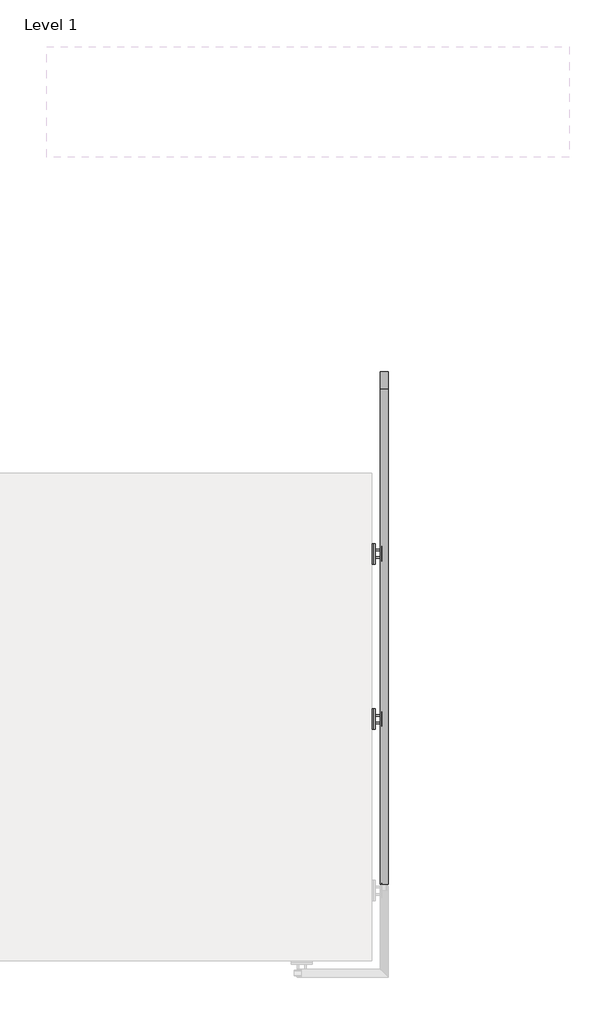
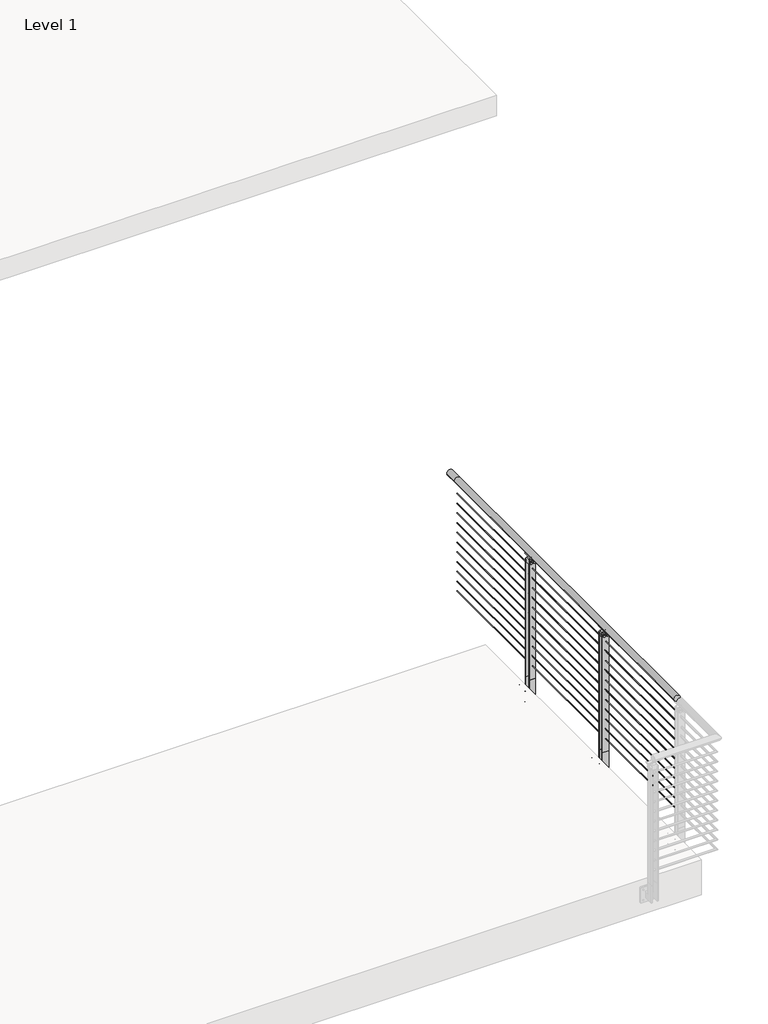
# One storey, part 6 of 36: 1 railing.
"""IFC4 building model written with IfcOpenShell, lengths in millimetres."""

from ifc_helpers import new_model, si_unit, point, frame, frame_2d, origin, origin_with_axes, place, context, project, spatial, polyline, circle_curve, trimmed, segment, composite_curve, outline, extrude, element, save
from ifc_brep_helpers import plane_surface, cylinder_surface, revolved_surface, advanced_brep

model = new_model("IFC4")

# Units and contexts
model_context = context("Model", 3, world=origin())
ifc_project = project(units=[si_unit("LENGTHUNIT", "METRE", prefix="MILLI")], contexts=[model_context])

# Site, building, storey
site = spatial("IfcSite", under=ifc_project)
building = spatial("IfcBuilding", under=site)
storey = spatial("IfcBuildingStorey", under=building, Name="Level 1", Elevation=0.0)

# Railing
placement = place(None, origin())
element("IfcRailing", 1, ObjectType="VIVA-BLADE-Cable-Fascia Mount-Straight", at=placement, inside=storey, context=model_context, shape_type="SolidModel", body=[
    advanced_brep(
    [(-4882.5880416, -53564.9334719, 1054.1), (-4831.7880416, -53564.9334719, 1054.1), (-4882.5880416, -53666.5334719, 1054.1), (-4831.7880416, -53666.5334719, 1054.1), (-4882.5880416, -56714.5334719, 1054.1), (-4831.7880416, -56714.5334719, 1054.1)],
    [
        (0, 1, circle_curve(frame((-4857.1880416, -53564.9334719, 1054.1), z_axis=(0.0, 1.0, 0.0), x_axis=(1.0, 0.0, 0.0)), 25.4)),
        (1, 0, circle_curve(frame((-4857.1880416, -53564.9334719, 1054.1), z_axis=(0.0, 1.0, 0.0), x_axis=(1.0, 0.0, 0.0)), 25.4)),
        (0, 2),
        (2, 3, circle_curve(frame((-4857.1880416, -53666.5334719, 1054.1), z_axis=(0.0, 1.0, 0.0), x_axis=(1.0, 0.0, 0.0)), 25.4)),
        (3, 1),
        (3, 2, circle_curve(frame((-4857.1880416, -53666.5334719, 1054.1), z_axis=(0.0, 1.0, 0.0), x_axis=(1.0, 0.0, 0.0)), 25.4)),
        (4, 5, circle_curve(frame((-4857.1880416, -56714.5334719, 1054.1), z_axis=(0.0, -1.0, 0.0), x_axis=(1.0, 0.0, 0.0)), 25.4)),
        (5, 4, circle_curve(frame((-4857.1880416, -56714.5334719, 1054.1), z_axis=(0.0, -1.0, 0.0), x_axis=(1.0, 0.0, 0.0)), 25.4)),
        (2, 4),
        (5, 3),
    ],
    [
        plane_surface(frame((-4857.1880416, -53564.9334719, 1079.5), z_axis=(0.0, 1.0, 0.0), x_axis=(0.0, 0.0, -1.0))),
        cylinder_surface(frame((-4857.1880416, -53564.9334719, 1054.1), z_axis=(0.0, 1.0, 0.0), x_axis=(1.0, 0.0, 0.0)), 25.4),
        plane_surface(frame((-4857.1880416, -56714.5334719, 1079.5), z_axis=(0.0, -1.0, 0.0), x_axis=(0.0, 0.0, -1.0))),
        cylinder_surface(frame((-4857.1880416, -53666.5334719, 1054.1), z_axis=(0.0, 1.0, 0.0), x_axis=(1.0, 0.0, 0.0)), 25.4),
    ],
    [
        (0, [[1, 2]]),
        (1, [[-1, 3, 4, 5]]),
        (1, [[-2, -5, 6, -3]]),
        (2, [[7, 8]]),
        (3, [[-4, 9, -8, 10]]),
        (3, [[-6, -10, -7, -9]]),
    ],
),
    extrude(outline(composite_curve([segment(trimmed(circle_curve(frame_2d((937.4124, -4857.1880416)), 2.3876), [point((937.4124, -4859.5756416))], [point((937.4124, -4854.8004416))], False, "CARTESIAN"), True, "CONTINUOUS"), segment(trimmed(circle_curve(frame_2d((937.4124, -4857.1880416)), 2.3876), [point((937.4124, -4854.8004416))], [point((937.4124, -4859.5756416))], False, "CARTESIAN"), True, "CONTINUOUS")], self_intersect=False)), frame((0.0, -56714.5334719, 0.0), z_axis=(0.0, 1.0, 0.0), x_axis=(0.0, 0.0, 1.0)), (0.0, 0.0, 1.0), 3048.0),
    extrude(outline(composite_curve([segment(trimmed(circle_curve(frame_2d((854.8624, -4857.1880416)), 2.3876), [point((854.8624, -4859.5756416))], [point((854.8624, -4854.8004416))], False, "CARTESIAN"), True, "CONTINUOUS"), segment(trimmed(circle_curve(frame_2d((854.8624, -4857.1880416)), 2.3876), [point((854.8624, -4854.8004416))], [point((854.8624, -4859.5756416))], False, "CARTESIAN"), True, "CONTINUOUS")], self_intersect=False)), frame((0.0, -56714.5334719, 0.0), z_axis=(0.0, 1.0, 0.0), x_axis=(0.0, 0.0, 1.0)), (0.0, 0.0, 1.0), 3048.0),
    extrude(outline(composite_curve([segment(trimmed(circle_curve(frame_2d((772.3124, -4857.1880416)), 2.3876), [point((772.3124, -4859.5756416))], [point((772.3124, -4854.8004416))], False, "CARTESIAN"), True, "CONTINUOUS"), segment(trimmed(circle_curve(frame_2d((772.3124, -4857.1880416)), 2.3876), [point((772.3124, -4854.8004416))], [point((772.3124, -4859.5756416))], False, "CARTESIAN"), True, "CONTINUOUS")], self_intersect=False)), frame((0.0, -56714.5334719, 0.0), z_axis=(0.0, 1.0, 0.0), x_axis=(0.0, 0.0, 1.0)), (0.0, 0.0, 1.0), 3048.0),
    extrude(outline(composite_curve([segment(trimmed(circle_curve(frame_2d((689.7624, -4857.1880416)), 2.3876), [point((689.7624, -4859.5756416))], [point((689.7624, -4854.8004416))], False, "CARTESIAN"), True, "CONTINUOUS"), segment(trimmed(circle_curve(frame_2d((689.7624, -4857.1880416)), 2.3876), [point((689.7624, -4854.8004416))], [point((689.7624, -4859.5756416))], False, "CARTESIAN"), True, "CONTINUOUS")], self_intersect=False)), frame((0.0, -56714.5334719, 0.0), z_axis=(0.0, 1.0, 0.0), x_axis=(0.0, 0.0, 1.0)), (0.0, 0.0, 1.0), 3048.0),
    extrude(outline(composite_curve([segment(trimmed(circle_curve(frame_2d((607.2124, -4857.1880416)), 2.3876), [point((607.2124, -4859.5756416))], [point((607.2124, -4854.8004416))], False, "CARTESIAN"), True, "CONTINUOUS"), segment(trimmed(circle_curve(frame_2d((607.2124, -4857.1880416)), 2.3876), [point((607.2124, -4854.8004416))], [point((607.2124, -4859.5756416))], False, "CARTESIAN"), True, "CONTINUOUS")], self_intersect=False)), frame((0.0, -56714.5334719, 0.0), z_axis=(0.0, 1.0, 0.0), x_axis=(0.0, 0.0, 1.0)), (0.0, 0.0, 1.0), 3048.0),
    extrude(outline(composite_curve([segment(trimmed(circle_curve(frame_2d((524.6624, -4857.1880416)), 2.3876), [point((524.6624, -4859.5756416))], [point((524.6624, -4854.8004416))], False, "CARTESIAN"), True, "CONTINUOUS"), segment(trimmed(circle_curve(frame_2d((524.6624, -4857.1880416)), 2.3876), [point((524.6624, -4854.8004416))], [point((524.6624, -4859.5756416))], False, "CARTESIAN"), True, "CONTINUOUS")], self_intersect=False)), frame((0.0, -56714.5334719, 0.0), z_axis=(0.0, 1.0, 0.0), x_axis=(0.0, 0.0, 1.0)), (0.0, 0.0, 1.0), 3048.0),
    extrude(outline(composite_curve([segment(trimmed(circle_curve(frame_2d((442.1124, -4857.1880416)), 2.3876), [point((442.1124, -4859.5756416))], [point((442.1124, -4854.8004416))], False, "CARTESIAN"), True, "CONTINUOUS"), segment(trimmed(circle_curve(frame_2d((442.1124, -4857.1880416)), 2.3876), [point((442.1124, -4854.8004416))], [point((442.1124, -4859.5756416))], False, "CARTESIAN"), True, "CONTINUOUS")], self_intersect=False)), frame((0.0, -56714.5334719, 0.0), z_axis=(0.0, 1.0, 0.0), x_axis=(0.0, 0.0, 1.0)), (0.0, 0.0, 1.0), 3048.0),
    extrude(outline(composite_curve([segment(trimmed(circle_curve(frame_2d((359.5624, -4857.1880416)), 2.3876), [point((359.5624, -4859.5756416))], [point((359.5624, -4854.8004416))], False, "CARTESIAN"), True, "CONTINUOUS"), segment(trimmed(circle_curve(frame_2d((359.5624, -4857.1880416)), 2.3876), [point((359.5624, -4854.8004416))], [point((359.5624, -4859.5756416))], False, "CARTESIAN"), True, "CONTINUOUS")], self_intersect=False)), frame((0.0, -56714.5334719, 0.0), z_axis=(0.0, 1.0, 0.0), x_axis=(0.0, 0.0, 1.0)), (0.0, 0.0, 1.0), 3048.0),
    extrude(outline(composite_curve([segment(trimmed(circle_curve(frame_2d((277.0124, -4857.1880416)), 2.3876), [point((277.0124, -4859.5756416))], [point((277.0124, -4854.8004416))], False, "CARTESIAN"), True, "CONTINUOUS"), segment(trimmed(circle_curve(frame_2d((277.0124, -4857.1880416)), 2.3876), [point((277.0124, -4854.8004416))], [point((277.0124, -4859.5756416))], False, "CARTESIAN"), True, "CONTINUOUS")], self_intersect=False)), frame((0.0, -56714.5334719, 0.0), z_axis=(0.0, 1.0, 0.0), x_axis=(0.0, 0.0, 1.0)), (0.0, 0.0, 1.0), 3048.0),
    extrude(outline(composite_curve([segment(trimmed(circle_curve(frame_2d((194.4624, -4857.1880416)), 2.3876), [point((194.4624, -4859.5756416))], [point((194.4624, -4854.8004416))], False, "CARTESIAN"), True, "CONTINUOUS"), segment(trimmed(circle_curve(frame_2d((194.4624, -4857.1880416)), 2.3876), [point((194.4624, -4854.8004416))], [point((194.4624, -4859.5756416))], False, "CARTESIAN"), True, "CONTINUOUS")], self_intersect=False)), frame((0.0, -56714.5334719, 0.0), z_axis=(0.0, 1.0, 0.0), x_axis=(0.0, 0.0, 1.0)), (0.0, 0.0, 1.0), 3048.0),
    extrude(outline(composite_curve([segment(trimmed(circle_curve(frame_2d((111.9124, -4857.1880416)), 2.3876), [point((111.9124, -4859.5756416))], [point((111.9124, -4854.8004416))], False, "CARTESIAN"), True, "CONTINUOUS"), segment(trimmed(circle_curve(frame_2d((111.9124, -4857.1880416)), 2.3876), [point((111.9124, -4854.8004416))], [point((111.9124, -4859.5756416))], False, "CARTESIAN"), True, "CONTINUOUS")], self_intersect=False)), frame((0.0, -56714.5334719, 0.0), z_axis=(0.0, 1.0, 0.0), x_axis=(0.0, 0.0, 1.0)), (0.0, 0.0, 1.0), 3048.0),
    extrude(outline(polyline([(-146.05, -4831.7855137), (0.0, -4831.7855137), (0.0, -4882.5855137), (-95.25, -4882.5855137), (-95.25, -4914.3382474), (-146.05, -4914.3382474), (-146.05, -4831.7855137)])), frame((0.0, -55679.4834719, 0.0), z_axis=(0.0, 1.0, 0.0), x_axis=(0.0, 0.0, 1.0)), (0.0, 0.0, 1.0), 8.0248357),
    extrude(outline(polyline([(0.0, -4882.5855137), (-95.25, -4882.5855137), (-95.25, -4914.3382474), (-146.05, -4914.3382474), (-146.05, -4831.7855137), (0.0, -4831.7855137), (0.0, -4882.5855137)])), frame((0.0, -55725.5844338, 0.0), z_axis=(0.0, 1.0, 0.0), x_axis=(0.0, 0.0, 1.0)), (0.0, 0.0, 1.0), 8.001),
    advanced_brep(
    [(-4869.9481653, -55743.7708719, 1032.0967655), (-4873.7840627, -55743.7708719, 1027.707533), (-4842.2671704, -55743.7708719, 1027.1267745), (-4845.0761007, -55743.7708719, 1031.9535285), (-4869.9481653, -55653.2960719, 1032.0967655), (-4844.9891286, -55653.2960719, 1032.0018447), (-4842.153377, -55653.2960719, 1027.1893964), (-4873.7840627, -55653.2960719, 1027.707533)],
    [
        (0, 1, circle_curve(frame((-4871.4957229, -55743.7708719, 1029.5784521), z_axis=(0.0, -1.0, 0.0), x_axis=(-1.0, 0.0, 0.0)), 2.9558141)),
        (1, 2, circle_curve(frame((-4857.5178255, -55743.7708719, 1054.9742164), z_axis=(0.0, -1.0, 0.0), x_axis=(-1.0, 0.0, 0.0)), 31.75)),
        (2, 3, circle_curve(frame((-4843.7444755, -55743.7708719, 1029.4993599), z_axis=(0.0, -1.0, 0.0), x_axis=(-1.0, 0.0, 0.0)), 2.7949225)),
        (3, 0, circle_curve(frame((-4857.3843624, -55743.7708719, 1054.2115898), z_axis=(0.0, 1.0, 0.0), x_axis=(-1.0, 0.0, 0.0)), 25.4345159)),
        (4, 5, circle_curve(frame((-4857.3843624, -55653.2960719, 1054.2115898), z_axis=(0.0, -1.0, 0.0), x_axis=(-1.0, 0.0, 0.0)), 25.4345159)),
        (5, 6, circle_curve(frame((-4843.7444755, -55653.2960719, 1029.4993599), z_axis=(0.0, 1.0, 0.0), x_axis=(-1.0, 0.0, 0.0)), 2.7949225)),
        (6, 7, circle_curve(frame((-4857.5178255, -55653.2960719, 1054.9742164), z_axis=(0.0, 1.0, 0.0), x_axis=(-1.0, 0.0, 0.0)), 31.75)),
        (7, 4, circle_curve(frame((-4871.4957229, -55653.2960719, 1029.5784521), z_axis=(0.0, 1.0, 0.0), x_axis=(-1.0, 0.0, 0.0)), 2.9558141)),
        (3, 5),
        (4, 0),
        (2, 6),
        (1, 7),
    ],
    [
        plane_surface(frame((-4882.8188782, -55743.7708719, 1054.2115898), z_axis=(0.0, -1.0, 0.0), x_axis=(0.0, 0.0, -1.0))),
        plane_surface(frame((-4882.8188782, -55653.2960719, 1054.2115898), z_axis=(0.0, 1.0, 0.0), x_axis=(0.0, 0.0, 1.0))),
        revolved_surface(polyline([(-4882.8188783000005, -55653.2960719, 1054.2115898), (-4882.8188783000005, -55743.7708719, 1054.2115898)]), (-4857.3843624, -55653.2960719, 1054.2115898), (0.0, 1.0, 0.0)),
        cylinder_surface(frame((-4843.7444755, -55653.2960719, 1029.4993599), z_axis=(0.0, -1.0, 0.0), x_axis=(-1.0, 0.0, 0.0)), 2.7949225),
        cylinder_surface(frame((-4857.5178255, -55653.2960719, 1054.9742164), z_axis=(0.0, -1.0, 0.0), x_axis=(-1.0, 0.0, 0.0)), 31.75),
        cylinder_surface(frame((-4871.4957229, -55653.2960719, 1029.5784521), z_axis=(0.0, -1.0, 0.0), x_axis=(-1.0, 0.0, 0.0)), 2.9558141),
    ],
    [
        (0, [[1, 2, 3, 4]]),
        (1, [[5, 6, 7, 8]]),
        (2, [[9, -5, 10, -4]]),
        (3, [[11, -6, -9, -3]]),
        (4, [[12, -7, -11, -2]]),
        (5, [[-10, -8, -12, -1]]),
    ],
),
    extrude(outline(polyline([(-4933.3882474, -55762.021535), (-4933.3882474, -55635.021535), (-4923.8632474, -55635.021535), (-4923.8632474, -55762.021535), (-4933.3882474, -55762.021535)])), frame((0.0, 0.0, -184.15), z_axis=(0.0, 0.0, 1.0), x_axis=(1.0, 0.0, 0.0)), (0.0, 0.0, 1.0), 127.0),
    advanced_brep(
    [(-4859.7280416, -55711.2334719, 1014.4125), (-4859.7280416, -55725.6013867, 1028.7804149), (-4859.7280416, -55671.465557, 1028.7804149), (-4859.7280416, -55685.8334719, 1014.4125), (-4854.6480416, -55711.2334719, 1014.4125), (-4854.6480416, -55685.8334719, 1014.4125), (-4854.6480416, -55671.465557, 1028.7804149), (-4854.6480416, -55725.6013867, 1028.7804149)],
    [
        (0, 1, circle_curve(frame((-4859.7280416, -55725.6013867, 1014.4125), z_axis=(1.0, 0.0, 0.0), x_axis=(0.0, 1.0, 0.0)), 14.3679149)),
        (1, 2),
        (2, 3, circle_curve(frame((-4859.7280416, -55671.465557, 1014.4125), z_axis=(1.0, 0.0, 0.0), x_axis=(0.0, 1.0, 0.0)), 14.3679149)),
        (3, 0),
        (4, 5),
        (5, 6, circle_curve(frame((-4854.6480416, -55671.465557, 1014.4125), z_axis=(-1.0, 0.0, 0.0), x_axis=(0.0, 1.0, 0.0)), 14.3679149)),
        (6, 7),
        (7, 4, circle_curve(frame((-4854.6480416, -55725.6013867, 1014.4125), z_axis=(-1.0, 0.0, 0.0), x_axis=(0.0, 1.0, 0.0)), 14.3679149)),
        (3, 5),
        (4, 0),
        (2, 6),
        (1, 7),
    ],
    [
        plane_surface(frame((-4859.7280416, -55685.8334719, 1014.4125), z_axis=(-1.0, 0.0, 0.0), x_axis=(0.0, 1.0, 0.0))),
        plane_surface(frame((-4854.6480416, -55685.8334719, 1014.4125), z_axis=(1.0, 0.0, 0.0), x_axis=(0.0, -1.0, 0.0))),
        plane_surface(frame((-4859.7280416, -55711.2334719, 1014.4125), z_axis=(0.0, 0.0, -1.0), x_axis=(1.0, 0.0, 0.0))),
        revolved_surface(polyline([(-4854.6480416, -55657.0976421, 1014.4125), (-4859.7280416, -55657.0976421, 1014.4125)]), (-4854.6480416, -55671.465557, 1014.4125), (1.0, 0.0, 0.0)),
        plane_surface(frame((-4859.7280416, -55671.465557, 1028.7804149), z_axis=(0.0, 0.0, 1.0), x_axis=(1.0, 0.0, 0.0))),
        revolved_surface(polyline([(-4854.6480416, -55711.2334718, 1014.4125), (-4859.7280416, -55711.2334718, 1014.4125)]), (-4854.6480416, -55725.6013867, 1014.4125), (1.0, 0.0, 0.0)),
    ],
    [
        (0, [[1, 2, 3, 4]]),
        (1, [[5, 6, 7, 8]]),
        (2, [[9, -5, 10, -4]]),
        (3, [[11, -6, -9, -3]]),
        (4, [[12, -7, -11, -2]]),
        (5, [[-10, -8, -12, -1]]),
    ],
),
    extrude(outline(polyline([(-4882.5878383, -55671.4586362), (-4831.7855137, -55671.4586362), (-4831.7855137, -55679.4834719), (-4882.5878383, -55679.4834719), (-4882.5878383, -55671.4586362)])), origin_with_axes(), (0.0, 0.0, 1.0), 996.95),
    extrude(outline(polyline([(-55635.021535, -184.15), (-55762.021535, -184.15), (-55762.021535, -57.15), (-55635.021535, -57.15), (-55635.021535, -184.15)]), holes=[composite_curve([segment(trimmed(circle_curve(frame_2d((-55654.071535, -76.2)), 4.7068371), [point((-55658.7783721, -76.2))], [point((-55649.3646979, -76.2))], True, "CARTESIAN"), True, "CONTINUOUS"), segment(trimmed(circle_curve(frame_2d((-55654.071535, -76.2)), 4.7068371), [point((-55649.3646979, -76.2))], [point((-55658.7783721, -76.2))], True, "CARTESIAN"), True, "CONTINUOUS")], self_intersect=False), composite_curve([segment(trimmed(circle_curve(frame_2d((-55742.971535, -76.2)), 4.7068371), [point((-55747.6783721, -76.2))], [point((-55738.2646979, -76.2))], True, "CARTESIAN"), True, "CONTINUOUS"), segment(trimmed(circle_curve(frame_2d((-55742.971535, -76.2)), 4.7068371), [point((-55738.2646979, -76.2))], [point((-55747.6783721, -76.2))], True, "CARTESIAN"), True, "CONTINUOUS")], self_intersect=False), composite_curve([segment(trimmed(circle_curve(frame_2d((-55742.971535, -165.1)), 4.7068371), [point((-55747.6783721, -165.1))], [point((-55738.2646979, -165.1))], True, "CARTESIAN"), True, "CONTINUOUS"), segment(trimmed(circle_curve(frame_2d((-55742.971535, -165.1)), 4.7068371), [point((-55738.2646979, -165.1))], [point((-55747.6783721, -165.1))], True, "CARTESIAN"), True, "CONTINUOUS")], self_intersect=False), composite_curve([segment(trimmed(circle_curve(frame_2d((-55654.071535, -165.1)), 4.7068371), [point((-55658.7783721, -165.1))], [point((-55649.3646979, -165.1))], True, "CARTESIAN"), True, "CONTINUOUS"), segment(trimmed(circle_curve(frame_2d((-55654.071535, -165.1)), 4.7068371), [point((-55649.3646979, -165.1))], [point((-55658.7783721, -165.1))], True, "CARTESIAN"), True, "CONTINUOUS")], self_intersect=False)]), frame((-4923.8632474, 0.0, 0.0), z_axis=(1.0, 0.0, 0.0), x_axis=(0.0, 1.0, 0.0)), (0.0, 0.0, 1.0), 9.525),
    extrude(outline(composite_curve([segment(trimmed(circle_curve(frame_2d((986.0416929, -4844.4855647)), 8.89), [point((986.0416929, -4835.5955647))], [point((986.0416929, -4853.3755647))], False, "CARTESIAN"), True, "CONTINUOUS"), segment(trimmed(circle_curve(frame_2d((986.0416929, -4844.4855647)), 8.89), [point((986.0416929, -4853.3755647))], [point((986.0416929, -4835.5955647))], False, "CARTESIAN"), True, "CONTINUOUS")], self_intersect=False)), frame((0.0, -55730.271535, 0.0), z_axis=(0.0, 1.0, 0.0), x_axis=(0.0, 0.0, 1.0)), (0.0, 0.0, 1.0), 63.4880631),
    extrude(outline(composite_curve([segment(trimmed(circle_curve(frame_2d((986.0416929, -4869.8854627)), 8.89), [point((986.0416929, -4860.9954627))], [point((986.0416929, -4878.7754627))], False, "CARTESIAN"), True, "CONTINUOUS"), segment(trimmed(circle_curve(frame_2d((986.0416929, -4869.8854627)), 8.89), [point((986.0416929, -4878.7754627))], [point((986.0416929, -4860.9954627))], False, "CARTESIAN"), True, "CONTINUOUS")], self_intersect=False)), frame((0.0, -55730.271535, 0.0), z_axis=(0.0, 1.0, 0.0), x_axis=(0.0, 0.0, 1.0)), (0.0, 0.0, 1.0), 63.4880631),
    extrude(outline(polyline([(-55679.4834719, 974.7123), (-55717.5834719, 974.7123), (-55717.5834719, 1008.0625), (-55711.2334719, 1014.4125), (-55685.8334719, 1014.4125), (-55679.4834719, 1008.0625), (-55679.4834719, 974.7123)])), frame((-4882.5880416, 0.0, 0.0), z_axis=(1.0, 0.0, 0.0), x_axis=(0.0, 1.0, 0.0)), (0.0, 0.0, 1.0), 50.8025279),
    extrude(outline(polyline([(-4882.5878383, -55717.5834338), (-4831.7855137, -55717.5834338), (-4831.7855137, -55725.5844338), (-4882.5878383, -55725.5844338), (-4882.5878383, -55717.5834338)])), origin_with_axes(), (0.0, 0.0, 1.0), 996.95),
    extrude(outline(polyline([(-146.05, -4831.7855137), (0.0, -4831.7855137), (0.0, -4882.5855137), (-95.25, -4882.5855137), (-95.25, -4914.3382474), (-146.05, -4914.3382474), (-146.05, -4831.7855137)])), frame((0.0, -54663.4834719, 0.0), z_axis=(0.0, 1.0, 0.0), x_axis=(0.0, 0.0, 1.0)), (0.0, 0.0, 1.0), 8.0248357),
    extrude(outline(polyline([(0.0, -4882.5855137), (-95.25, -4882.5855137), (-95.25, -4914.3382474), (-146.05, -4914.3382474), (-146.05, -4831.7855137), (0.0, -4831.7855137), (0.0, -4882.5855137)])), frame((0.0, -54709.5844338, 0.0), z_axis=(0.0, 1.0, 0.0), x_axis=(0.0, 0.0, 1.0)), (0.0, 0.0, 1.0), 8.001),
    advanced_brep(
    [(-4869.9481653, -54727.7708719, 1032.0967655), (-4873.7840627, -54727.7708719, 1027.707533), (-4842.2671704, -54727.7708719, 1027.1267745), (-4845.0761007, -54727.7708719, 1031.9535285), (-4869.9481653, -54637.2960719, 1032.0967655), (-4844.9891286, -54637.2960719, 1032.0018447), (-4842.153377, -54637.2960719, 1027.1893964), (-4873.7840627, -54637.2960719, 1027.707533)],
    [
        (0, 1, circle_curve(frame((-4871.4957229, -54727.7708719, 1029.5784521), z_axis=(0.0, -1.0, 0.0), x_axis=(-1.0, 0.0, 0.0)), 2.9558141)),
        (1, 2, circle_curve(frame((-4857.5178255, -54727.7708719, 1054.9742164), z_axis=(0.0, -1.0, 0.0), x_axis=(-1.0, 0.0, 0.0)), 31.75)),
        (2, 3, circle_curve(frame((-4843.7444755, -54727.7708719, 1029.4993599), z_axis=(0.0, -1.0, 0.0), x_axis=(-1.0, 0.0, 0.0)), 2.7949225)),
        (3, 0, circle_curve(frame((-4857.3843624, -54727.7708719, 1054.2115898), z_axis=(0.0, 1.0, 0.0), x_axis=(-1.0, 0.0, 0.0)), 25.4345159)),
        (4, 5, circle_curve(frame((-4857.3843624, -54637.2960719, 1054.2115898), z_axis=(0.0, -1.0, 0.0), x_axis=(-1.0, 0.0, 0.0)), 25.4345159)),
        (5, 6, circle_curve(frame((-4843.7444755, -54637.2960719, 1029.4993599), z_axis=(0.0, 1.0, 0.0), x_axis=(-1.0, 0.0, 0.0)), 2.7949225)),
        (6, 7, circle_curve(frame((-4857.5178255, -54637.2960719, 1054.9742164), z_axis=(0.0, 1.0, 0.0), x_axis=(-1.0, 0.0, 0.0)), 31.75)),
        (7, 4, circle_curve(frame((-4871.4957229, -54637.2960719, 1029.5784521), z_axis=(0.0, 1.0, 0.0), x_axis=(-1.0, 0.0, 0.0)), 2.9558141)),
        (3, 5),
        (4, 0),
        (2, 6),
        (1, 7),
    ],
    [
        plane_surface(frame((-4882.8188782, -54727.7708719, 1054.2115898), z_axis=(0.0, -1.0, 0.0), x_axis=(0.0, 0.0, -1.0))),
        plane_surface(frame((-4882.8188782, -54637.2960719, 1054.2115898), z_axis=(0.0, 1.0, 0.0), x_axis=(0.0, 0.0, 1.0))),
        revolved_surface(polyline([(-4882.8188783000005, -54637.2960719, 1054.2115898), (-4882.8188783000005, -54727.7708719, 1054.2115898)]), (-4857.3843624, -54637.2960719, 1054.2115898), (0.0, 1.0, 0.0)),
        cylinder_surface(frame((-4843.7444755, -54637.2960719, 1029.4993599), z_axis=(0.0, -1.0, 0.0), x_axis=(-1.0, 0.0, 0.0)), 2.7949225),
        cylinder_surface(frame((-4857.5178255, -54637.2960719, 1054.9742164), z_axis=(0.0, -1.0, 0.0), x_axis=(-1.0, 0.0, 0.0)), 31.75),
        cylinder_surface(frame((-4871.4957229, -54637.2960719, 1029.5784521), z_axis=(0.0, -1.0, 0.0), x_axis=(-1.0, 0.0, 0.0)), 2.9558141),
    ],
    [
        (0, [[1, 2, 3, 4]]),
        (1, [[5, 6, 7, 8]]),
        (2, [[9, -5, 10, -4]]),
        (3, [[11, -6, -9, -3]]),
        (4, [[12, -7, -11, -2]]),
        (5, [[-10, -8, -12, -1]]),
    ],
),
    extrude(outline(polyline([(-4933.3882474, -54746.021535), (-4933.3882474, -54619.021535), (-4923.8632474, -54619.021535), (-4923.8632474, -54746.021535), (-4933.3882474, -54746.021535)])), frame((0.0, 0.0, -184.15), z_axis=(0.0, 0.0, 1.0), x_axis=(1.0, 0.0, 0.0)), (0.0, 0.0, 1.0), 127.0),
    advanced_brep(
    [(-4859.7280416, -54695.2334719, 1014.4125), (-4859.7280416, -54709.6013867, 1028.7804149), (-4859.7280416, -54655.465557, 1028.7804149), (-4859.7280416, -54669.8334719, 1014.4125), (-4854.6480416, -54695.2334719, 1014.4125), (-4854.6480416, -54669.8334719, 1014.4125), (-4854.6480416, -54655.465557, 1028.7804149), (-4854.6480416, -54709.6013867, 1028.7804149)],
    [
        (0, 1, circle_curve(frame((-4859.7280416, -54709.6013867, 1014.4125), z_axis=(1.0, 0.0, 0.0), x_axis=(0.0, 1.0, 0.0)), 14.3679149)),
        (1, 2),
        (2, 3, circle_curve(frame((-4859.7280416, -54655.465557, 1014.4125), z_axis=(1.0, 0.0, 0.0), x_axis=(0.0, 1.0, 0.0)), 14.3679149)),
        (3, 0),
        (4, 5),
        (5, 6, circle_curve(frame((-4854.6480416, -54655.465557, 1014.4125), z_axis=(-1.0, 0.0, 0.0), x_axis=(0.0, 1.0, 0.0)), 14.3679149)),
        (6, 7),
        (7, 4, circle_curve(frame((-4854.6480416, -54709.6013867, 1014.4125), z_axis=(-1.0, 0.0, 0.0), x_axis=(0.0, 1.0, 0.0)), 14.3679149)),
        (3, 5),
        (4, 0),
        (2, 6),
        (1, 7),
    ],
    [
        plane_surface(frame((-4859.7280416, -54669.8334719, 1014.4125), z_axis=(-1.0, 0.0, 0.0), x_axis=(0.0, 1.0, 0.0))),
        plane_surface(frame((-4854.6480416, -54669.8334719, 1014.4125), z_axis=(1.0, 0.0, 0.0), x_axis=(0.0, -1.0, 0.0))),
        plane_surface(frame((-4859.7280416, -54695.2334719, 1014.4125), z_axis=(0.0, 0.0, -1.0), x_axis=(1.0, 0.0, 0.0))),
        revolved_surface(polyline([(-4854.6480416, -54641.0976421, 1014.4125), (-4859.7280416, -54641.0976421, 1014.4125)]), (-4854.6480416, -54655.465557, 1014.4125), (1.0, 0.0, 0.0)),
        plane_surface(frame((-4859.7280416, -54655.465557, 1028.7804149), z_axis=(0.0, 0.0, 1.0), x_axis=(1.0, 0.0, 0.0))),
        revolved_surface(polyline([(-4854.6480416, -54695.2334718, 1014.4125), (-4859.7280416, -54695.2334718, 1014.4125)]), (-4854.6480416, -54709.6013867, 1014.4125), (1.0, 0.0, 0.0)),
    ],
    [
        (0, [[1, 2, 3, 4]]),
        (1, [[5, 6, 7, 8]]),
        (2, [[9, -5, 10, -4]]),
        (3, [[11, -6, -9, -3]]),
        (4, [[12, -7, -11, -2]]),
        (5, [[-10, -8, -12, -1]]),
    ],
),
    extrude(outline(polyline([(-4882.5878383, -54655.4586362), (-4831.7855137, -54655.4586362), (-4831.7855137, -54663.4834719), (-4882.5878383, -54663.4834719), (-4882.5878383, -54655.4586362)])), origin_with_axes(), (0.0, 0.0, 1.0), 996.95),
    extrude(outline(polyline([(-54619.021535, -184.15), (-54746.021535, -184.15), (-54746.021535, -57.15), (-54619.021535, -57.15), (-54619.021535, -184.15)]), holes=[composite_curve([segment(trimmed(circle_curve(frame_2d((-54638.071535, -76.2)), 4.7068371), [point((-54642.7783721, -76.2))], [point((-54633.3646979, -76.2))], True, "CARTESIAN"), True, "CONTINUOUS"), segment(trimmed(circle_curve(frame_2d((-54638.071535, -76.2)), 4.7068371), [point((-54633.3646979, -76.2))], [point((-54642.7783721, -76.2))], True, "CARTESIAN"), True, "CONTINUOUS")], self_intersect=False), composite_curve([segment(trimmed(circle_curve(frame_2d((-54726.971535, -76.2)), 4.7068371), [point((-54731.6783721, -76.2))], [point((-54722.2646979, -76.2))], True, "CARTESIAN"), True, "CONTINUOUS"), segment(trimmed(circle_curve(frame_2d((-54726.971535, -76.2)), 4.7068371), [point((-54722.2646979, -76.2))], [point((-54731.6783721, -76.2))], True, "CARTESIAN"), True, "CONTINUOUS")], self_intersect=False), composite_curve([segment(trimmed(circle_curve(frame_2d((-54726.971535, -165.1)), 4.7068371), [point((-54731.6783721, -165.1))], [point((-54722.2646979, -165.1))], True, "CARTESIAN"), True, "CONTINUOUS"), segment(trimmed(circle_curve(frame_2d((-54726.971535, -165.1)), 4.7068371), [point((-54722.2646979, -165.1))], [point((-54731.6783721, -165.1))], True, "CARTESIAN"), True, "CONTINUOUS")], self_intersect=False), composite_curve([segment(trimmed(circle_curve(frame_2d((-54638.071535, -165.1)), 4.7068371), [point((-54642.7783721, -165.1))], [point((-54633.3646979, -165.1))], True, "CARTESIAN"), True, "CONTINUOUS"), segment(trimmed(circle_curve(frame_2d((-54638.071535, -165.1)), 4.7068371), [point((-54633.3646979, -165.1))], [point((-54642.7783721, -165.1))], True, "CARTESIAN"), True, "CONTINUOUS")], self_intersect=False)]), frame((-4923.8632474, 0.0, 0.0), z_axis=(1.0, 0.0, 0.0), x_axis=(0.0, 1.0, 0.0)), (0.0, 0.0, 1.0), 9.525),
    extrude(outline(composite_curve([segment(trimmed(circle_curve(frame_2d((986.0416929, -4844.4855647)), 8.89), [point((986.0416929, -4835.5955647))], [point((986.0416929, -4853.3755647))], False, "CARTESIAN"), True, "CONTINUOUS"), segment(trimmed(circle_curve(frame_2d((986.0416929, -4844.4855647)), 8.89), [point((986.0416929, -4853.3755647))], [point((986.0416929, -4835.5955647))], False, "CARTESIAN"), True, "CONTINUOUS")], self_intersect=False)), frame((0.0, -54714.271535, 0.0), z_axis=(0.0, 1.0, 0.0), x_axis=(0.0, 0.0, 1.0)), (0.0, 0.0, 1.0), 63.4880631),
    extrude(outline(composite_curve([segment(trimmed(circle_curve(frame_2d((986.0416929, -4869.8854627)), 8.89), [point((986.0416929, -4860.9954627))], [point((986.0416929, -4878.7754627))], False, "CARTESIAN"), True, "CONTINUOUS"), segment(trimmed(circle_curve(frame_2d((986.0416929, -4869.8854627)), 8.89), [point((986.0416929, -4878.7754627))], [point((986.0416929, -4860.9954627))], False, "CARTESIAN"), True, "CONTINUOUS")], self_intersect=False)), frame((0.0, -54714.271535, 0.0), z_axis=(0.0, 1.0, 0.0), x_axis=(0.0, 0.0, 1.0)), (0.0, 0.0, 1.0), 63.4880631),
    extrude(outline(polyline([(-54663.4834719, 974.7123), (-54701.5834719, 974.7123), (-54701.5834719, 1008.0625), (-54695.2334719, 1014.4125), (-54669.8334719, 1014.4125), (-54663.4834719, 1008.0625), (-54663.4834719, 974.7123)])), frame((-4882.5880416, 0.0, 0.0), z_axis=(1.0, 0.0, 0.0), x_axis=(0.0, 1.0, 0.0)), (0.0, 0.0, 1.0), 50.8025279),
    extrude(outline(polyline([(-4882.5878383, -54701.5834338), (-4831.7855137, -54701.5834338), (-4831.7855137, -54709.5844338), (-4882.5878383, -54709.5844338), (-4882.5878383, -54701.5834338)])), origin_with_axes(), (0.0, 0.0, 1.0), 996.95),
])

save(model, "model.ifc")
